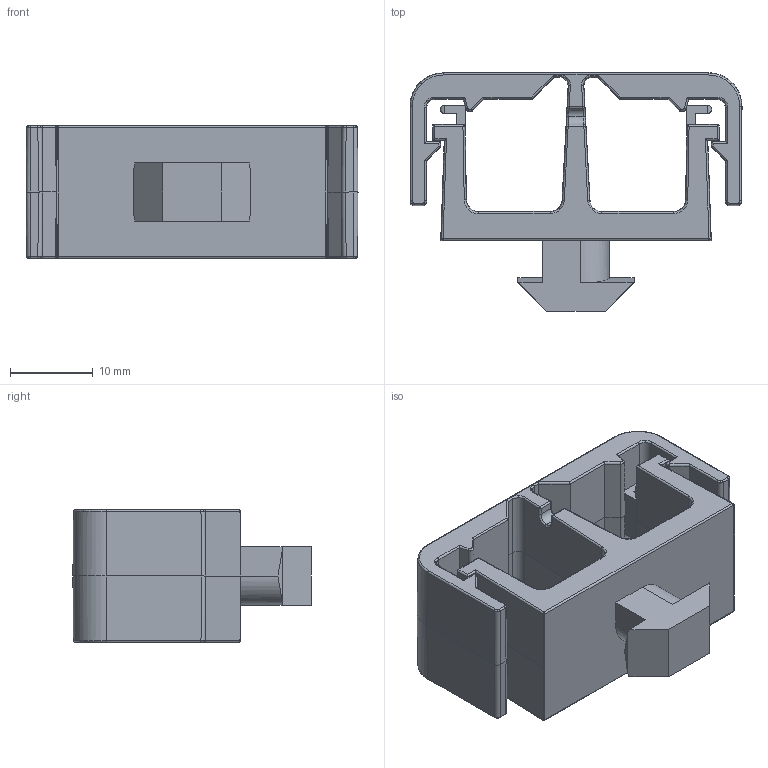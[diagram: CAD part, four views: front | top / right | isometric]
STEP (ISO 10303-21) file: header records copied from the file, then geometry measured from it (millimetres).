
FILE_DESCRIPTION (( 'STEP AP203' ), '1' );
FILE_NAME ('412017_Kabelträger PA 8 mit Trennsteg.step', '2022-06-08T08:32:32', ( '' ), ( '' ), 'SwSTEP 2.0', 'SolidWorks 2021', '' );
FILE_SCHEMA (( 'CONFIG_CONTROL_DESIGN' ));
Length unit declared in the file: millimetre
Products named in the file (1): 412017_Kabelträger PA 8 mit Trennsteg
Bounding box: 40 x 28.7 x 16 mm (x, y, z)
Volume: 6535.7 mm3; surface area: 5666 mm2
Topology: 1 solids, 1 shells, 380 faces, 906 edges, 525 vertices
Faces by surface type: cylinder 165, plane 128, bspline 83, cone 4
Entity records: 11871 total; most frequent: CARTESIAN_POINT 3943, ORIENTED_EDGE 1814, DIRECTION 1410, EDGE_CURVE 907, VERTEX_POINT 526, LINE 500, VECTOR 500, AXIS2_PLACEMENT_3D 455
